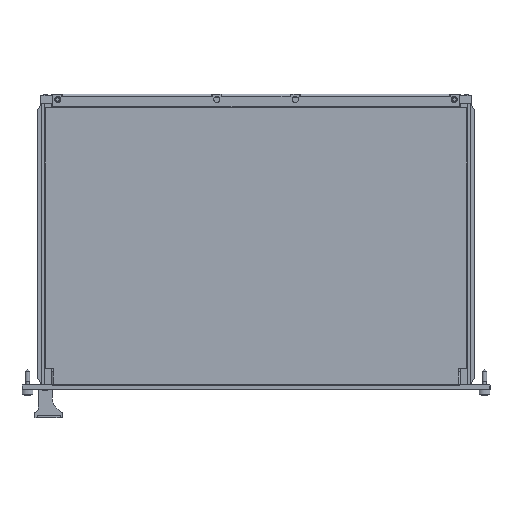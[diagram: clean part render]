
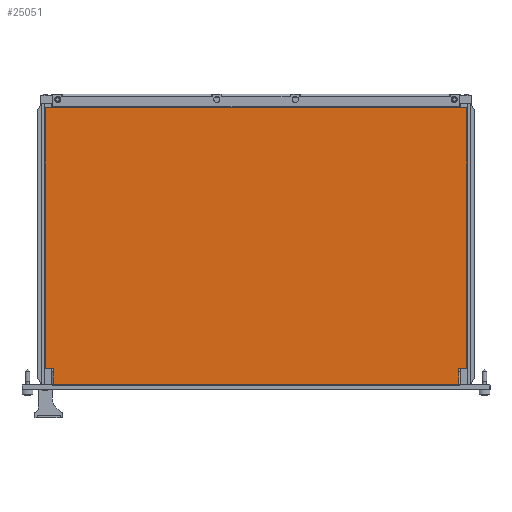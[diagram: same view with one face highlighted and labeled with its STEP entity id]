
A CAD part, top view. The second image highlights one B-rep face of the part: STEP entity #25051.
In plain terms, the highlighted planar face has unit normal (0, 0, 1) as drawn and (-1, 0, 0) by its records, which use the part's own axes.
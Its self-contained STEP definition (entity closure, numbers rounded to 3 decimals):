
#579 = VERTEX_POINT ( 'NONE', #30145 ) ;
#701 = CARTESIAN_POINT ( 'NONE',  ( 114.3, -73.795, 3.69 ) ) ;
#1000 = LINE ( 'NONE', #28589, #31725 ) ;
#1259 = EDGE_CURVE ( 'NONE', #579, #10366, #20468, .T. ) ;
#2376 = CARTESIAN_POINT ( 'NONE',  ( 114.3, 72., -0.81 ) ) ;
#2392 = EDGE_CURVE ( 'NONE', #31303, #17859, #5646, .T. ) ;
#2678 = CARTESIAN_POINT ( 'NONE',  ( 114.3, 72., 3.69 ) ) ;
#2699 = VECTOR ( 'NONE', #25327, 1000. ) ;
#4772 = VERTEX_POINT ( 'NONE', #701 ) ;
#4868 = CARTESIAN_POINT ( 'NONE',  ( 114.3, -73.795, -114.31 ) ) ;
#4971 = ORIENTED_EDGE ( 'NONE', *, *, #30471, .F. ) ;
#5156 = EDGE_CURVE ( 'NONE', #17859, #8710, #17487, .T. ) ;
#5184 = ORIENTED_EDGE ( 'NONE', *, *, #8275, .T. ) ;
#5234 = DIRECTION ( 'NONE',  ( 0., 0., -1. ) ) ;
#5320 = VERTEX_POINT ( 'NONE', #24827 ) ;
#5646 = LINE ( 'NONE', #25290, #10954 ) ;
#6002 = PLANE ( 'NONE',  #9870 ) ;
#6128 = CARTESIAN_POINT ( 'NONE',  ( 114.3, 72., -232.31 ) ) ;
#6342 = EDGE_CURVE ( 'NONE', #4772, #7693, #6789, .T. ) ;
#6459 = CARTESIAN_POINT ( 'NONE',  ( 114.3, 72., 3.69 ) ) ;
#6498 = VERTEX_POINT ( 'NONE', #26274 ) ;
#6789 = LINE ( 'NONE', #6459, #30554 ) ;
#7477 = LINE ( 'NONE', #7647, #22641 ) ;
#7508 = CARTESIAN_POINT ( 'NONE',  ( 114.3, 72., -232.31 ) ) ;
#7647 = CARTESIAN_POINT ( 'NONE',  ( 114.3, 81.5, -230.81 ) ) ;
#7693 = VERTEX_POINT ( 'NONE', #2678 ) ;
#7936 = ORIENTED_EDGE ( 'NONE', *, *, #16826, .F. ) ;
#8275 = EDGE_CURVE ( 'NONE', #7693, #5320, #17715, .T. ) ;
#8710 = VERTEX_POINT ( 'NONE', #15982 ) ;
#8711 = EDGE_CURVE ( 'NONE', #579, #32292, #7477, .T. ) ;
#9280 = CARTESIAN_POINT ( 'NONE',  ( 114.3, 72., -227.81 ) ) ;
#9870 = AXIS2_PLACEMENT_3D ( 'NONE', #13778, #11363, #19279 ) ;
#10366 = VERTEX_POINT ( 'NONE', #26539 ) ;
#10504 = VECTOR ( 'NONE', #16766, 1000. ) ;
#10954 = VECTOR ( 'NONE', #20217, 1000. ) ;
#10972 = DIRECTION ( 'NONE',  ( 0., 0., -1. ) ) ;
#11363 = DIRECTION ( 'NONE',  ( 1., 0., 0. ) ) ;
#11580 = ORIENTED_EDGE ( 'NONE', *, *, #29188, .T. ) ;
#11688 = LINE ( 'NONE', #30568, #2699 ) ;
#11792 = FACE_OUTER_BOUND ( 'NONE', #22719, .T. ) ;
#11818 = VECTOR ( 'NONE', #12658, 1000. ) ;
#12658 = DIRECTION ( 'NONE',  ( 0., 0., 1. ) ) ;
#13048 = ORIENTED_EDGE ( 'NONE', *, *, #17768, .T. ) ;
#13060 = VECTOR ( 'NONE', #30680, 1000. ) ;
#13778 = CARTESIAN_POINT ( 'NONE',  ( 114.3, 0., -114.31 ) ) ;
#15939 = ORIENTED_EDGE ( 'NONE', *, *, #2392, .T. ) ;
#15982 = CARTESIAN_POINT ( 'NONE',  ( 114.3, -73.795, -232.31 ) ) ;
#16766 = DIRECTION ( 'NONE',  ( 0., -1., 0. ) ) ;
#16826 = EDGE_CURVE ( 'NONE', #10366, #5320, #20049, .T. ) ;
#17487 = LINE ( 'NONE', #6128, #10504 ) ;
#17715 = LINE ( 'NONE', #32173, #21846 ) ;
#17768 = EDGE_CURVE ( 'NONE', #8710, #4772, #32336, .T. ) ;
#17859 = VERTEX_POINT ( 'NONE', #7508 ) ;
#19279 = DIRECTION ( 'NONE',  ( 0., 0., -1. ) ) ;
#19327 = ORIENTED_EDGE ( 'NONE', *, *, #5156, .T. ) ;
#20049 = LINE ( 'NONE', #2376, #13060 ) ;
#20148 = CARTESIAN_POINT ( 'NONE',  ( 114.3, 81.5, -227.81 ) ) ;
#20217 = DIRECTION ( 'NONE',  ( 0., 0., -1. ) ) ;
#20468 = LINE ( 'NONE', #21095, #22116 ) ;
#21095 = CARTESIAN_POINT ( 'NONE',  ( 114.3, 0., -0.81 ) ) ;
#21812 = ORIENTED_EDGE ( 'NONE', *, *, #6342, .T. ) ;
#21846 = VECTOR ( 'NONE', #10972, 1000. ) ;
#22116 = VECTOR ( 'NONE', #23520, 1000. ) ;
#22641 = VECTOR ( 'NONE', #5234, 1000. ) ;
#22719 = EDGE_LOOP ( 'NONE', ( #28541, #24880, #11580, #4971, #15939, #19327, #13048, #21812, #5184, #7936 ) ) ;
#23520 = DIRECTION ( 'NONE',  ( 0., -1., 0. ) ) ;
#24799 = DIRECTION ( 'NONE',  ( 0., 1., 0. ) ) ;
#24827 = CARTESIAN_POINT ( 'NONE',  ( 114.3, 72., -0.81 ) ) ;
#24880 = ORIENTED_EDGE ( 'NONE', *, *, #8711, .T. ) ;
#25051 = ADVANCED_FACE ( 'NONE', ( #11792 ), #6002, .F. ) ;
#25290 = CARTESIAN_POINT ( 'NONE',  ( 114.3, 72., -230.81 ) ) ;
#25327 = DIRECTION ( 'NONE',  ( 0., -1., 0. ) ) ;
#26274 = CARTESIAN_POINT ( 'NONE',  ( 114.3, 74., -227.81 ) ) ;
#26539 = CARTESIAN_POINT ( 'NONE',  ( 114.3, 74., -0.81 ) ) ;
#28541 = ORIENTED_EDGE ( 'NONE', *, *, #1259, .F. ) ;
#28589 = CARTESIAN_POINT ( 'NONE',  ( 114.3, 72., -227.81 ) ) ;
#29188 = EDGE_CURVE ( 'NONE', #32292, #6498, #11688, .T. ) ;
#30145 = CARTESIAN_POINT ( 'NONE',  ( 114.3, 81.5, -0.81 ) ) ;
#30471 = EDGE_CURVE ( 'NONE', #31303, #6498, #1000, .T. ) ;
#30554 = VECTOR ( 'NONE', #24799, 1000. ) ;
#30568 = CARTESIAN_POINT ( 'NONE',  ( 114.3, 0., -227.81 ) ) ;
#30680 = DIRECTION ( 'NONE',  ( 0., -1., 0. ) ) ;
#31303 = VERTEX_POINT ( 'NONE', #9280 ) ;
#31547 = DIRECTION ( 'NONE',  ( 0., 1., 0. ) ) ;
#31725 = VECTOR ( 'NONE', #31547, 1000. ) ;
#32173 = CARTESIAN_POINT ( 'NONE',  ( 114.3, 72., 3.69 ) ) ;
#32292 = VERTEX_POINT ( 'NONE', #20148 ) ;
#32336 = LINE ( 'NONE', #4868, #11818 ) ;
